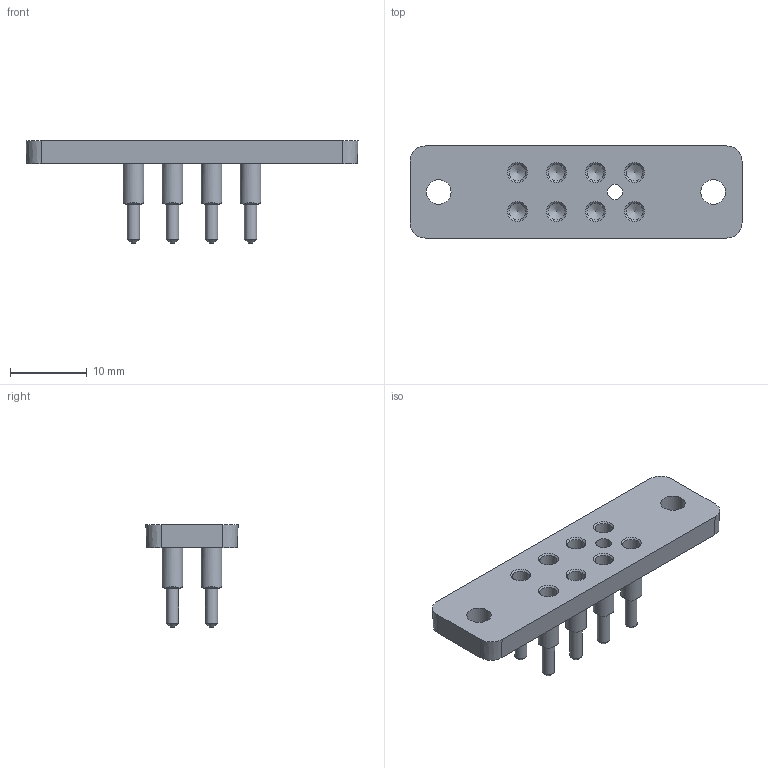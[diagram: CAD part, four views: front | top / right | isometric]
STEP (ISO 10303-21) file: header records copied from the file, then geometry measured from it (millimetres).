
FILE_DESCRIPTION(/* description */ (''),/* implementation_level */ '2;1');
FILE_NAME(/* name */ '\\Snap1\dwgs\Customer 3D Models\703\703-8071-02 Customer model.stp',/* time_stamp */ '2017-01-04T16:28:45+00:00',/* author */ ('paulk'),/* organization */ (''),/* preprocessor_version */ 'ST-DEVELOPER v15.2',/* originating_system */ 'Autodesk Inventor 2014',/* authorisation */ '');
FILE_SCHEMA (('CONFIG_CONTROL_DESIGN'));
Length unit declared in the file: millimetre
Products named in the file (1): 703-8071-02 Customer model
Bounding box: 43.2 x 12 x 13.3 mm (x, y, z)
Volume: 1396.8 mm3; surface area: 2399.2 mm2
Topology: 1 solids, 1 shells, 147 faces, 354 edges, 228 vertices
Faces by surface type: plane 77, cylinder 35, cone 30, bspline 5
Full cylindrical faces by diameter (mm): 1.6 x8, 2 x1, 2.22 x8, 2.7 x8, 3.2 x2
Entity records: 4258 total; most frequent: CARTESIAN_POINT 883, DIRECTION 677, ORIENTED_EDGE 574, EDGE_CURVE 287, AXIS2_PLACEMENT_3D 265, EDGE_LOOP 223, VERTEX_POINT 212, STYLED_ITEM 148
